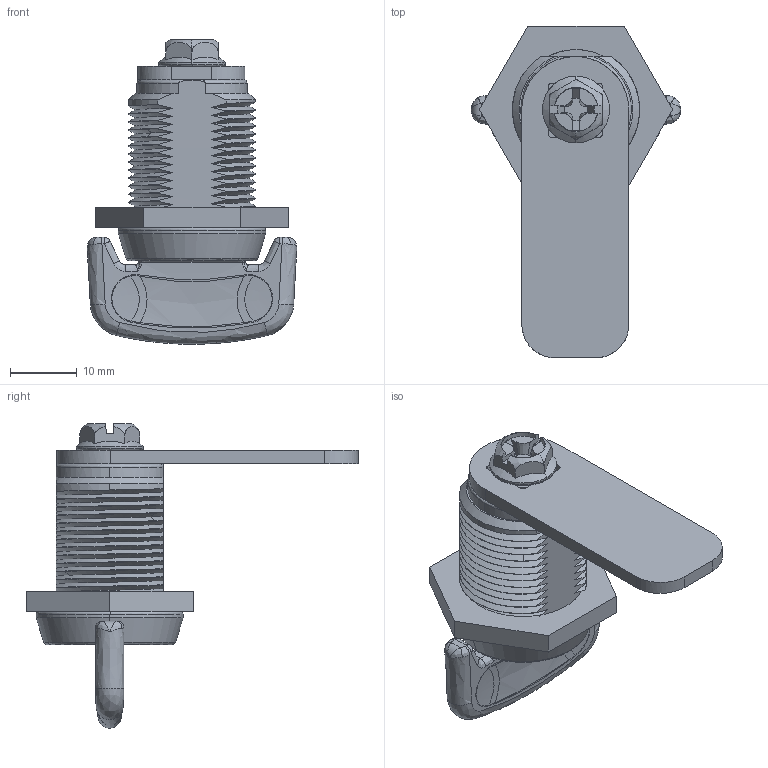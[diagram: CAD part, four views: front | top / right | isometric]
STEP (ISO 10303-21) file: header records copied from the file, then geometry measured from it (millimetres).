
FILE_DESCRIPTION (( 'STEP AP203' ), '1' );
FILE_NAME ('MS424.step', '2024-09-25T23:51:10', ( '' ), ( '' ), 'SwSTEP 2.0', 'SolidWorks 2022', '' );
FILE_SCHEMA (( 'CONFIG_CONTROL_DESIGN' ));
Length unit declared in the file: millimetre
Products named in the file (1): MS424
Bounding box: 31.33 x 49.6 x 45.5 mm (x, y, z)
Surface area: 9641.8 mm2 (no closed solid volume)
Topology: 0 solids, 5 shells, 408 faces, 1111 edges, 715 vertices
Faces by surface type: bspline 408
Entity records: 30310 total; most frequent: CARTESIAN_POINT 23769, ORIENTED_EDGE 2210, EDGE_CURVE 1109, B_SPLINE_CURVE_WITH_KNOTS 927, VERTEX_POINT 715, EDGE_LOOP 422, ADVANCED_FACE 408, FACE_OUTER_BOUND 408
